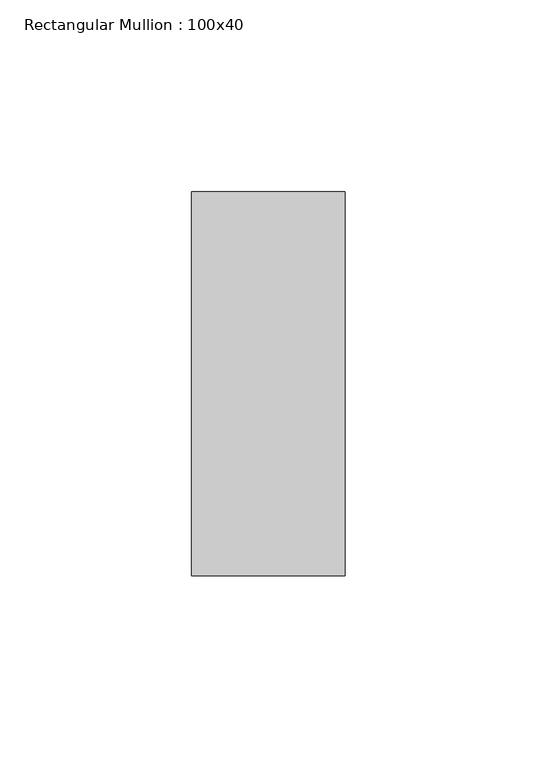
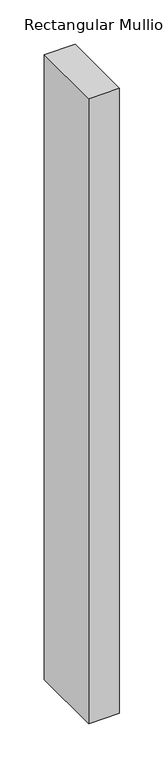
"""IFC4 building model written with IfcOpenShell, lengths in millimetres: member geometry, Rectangular Mullion : 100x40."""

from ifc_helpers import new_model, si_unit, frame, origin, place, context, project, spatial, polyline, outline, extrude, source, transform, mapped, element, save


def rectangular_mullion_100x40_2c442731(model_context):
    return source(origin(), model_context, "Body", "SweptSolid", [
        extrude(outline(polyline([(0.0, 50.0), (0.0, -50.0), (-40.0, -50.0), (-40.0, 50.0), (0.0, 50.0)])), frame((0.0, 0.0, -860.0), z_axis=(0.0, 0.0, 1.0), x_axis=(1.0, 0.0, 0.0)), (0.0, 0.0, 1.0), 860.0),
    ])


if __name__ == "__main__":
    model = new_model("IFC4")
    model_context = context("Model", 3, world=origin())
    ifc_project = project(units=[si_unit("LENGTHUNIT", "METRE", prefix="MILLI")], contexts=[model_context])
    site = spatial("IfcSite", under=ifc_project)
    building = spatial("IfcBuilding", under=site)
    placement = place(None, origin())
    rectangular_mullion_100x40_shape = rectangular_mullion_100x40_2c442731(model_context)
    element("IfcMember", 1, ObjectType="Rectangular Mullion : 100x40", at=placement, inside=building, context=model_context, shape_type="MappedRepresentation", body=[
        mapped(rectangular_mullion_100x40_shape, transform((0.0, 0.0, 0.0), x_axis=(1.0, 0.0, 0.0), y_axis=(0.0, 1.0, 0.0), z_axis=(0.0, 0.0, 1.0))),
    ])
    save(model, "model.ifc")
